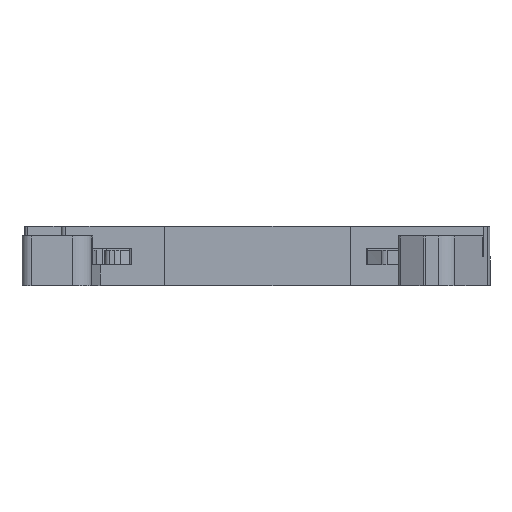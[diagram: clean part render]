
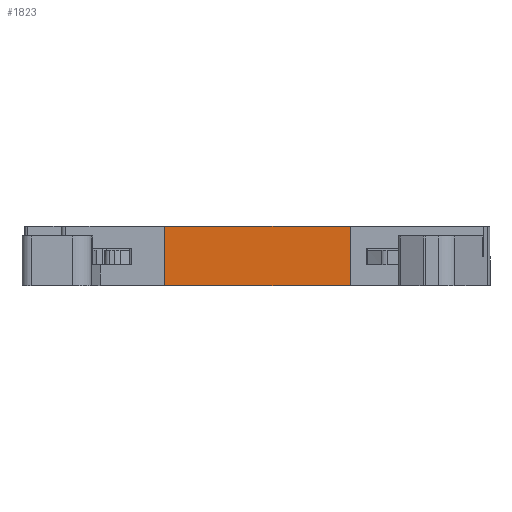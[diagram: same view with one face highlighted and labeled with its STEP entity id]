
A CAD part, front view. The second image highlights one B-rep face of the part: STEP entity #1823.
In plain terms, the highlighted planar face has unit normal (0, -1, 0).
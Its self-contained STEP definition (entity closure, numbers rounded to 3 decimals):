
#1823=ADVANCED_FACE('',(#3267),#2597,.T.);
#2597=PLANE('',#18495);
#3267=FACE_OUTER_BOUND('',#4154,.T.);
#4154=EDGE_LOOP('',(#7249,#7250,#7251,#7252));
#7249=ORIENTED_EDGE('',*,*,#13087,.F.);
#7250=ORIENTED_EDGE('',*,*,#13088,.T.);
#7251=ORIENTED_EDGE('',*,*,#13084,.T.);
#7252=ORIENTED_EDGE('',*,*,#13089,.F.);
#10932=VERTEX_POINT('',#28011);
#10933=VERTEX_POINT('',#28012);
#10934=VERTEX_POINT('',#28017);
#10935=VERTEX_POINT('',#28018);
#13084=EDGE_CURVE('',#10932,#10933,#15239,.T.);
#13087=EDGE_CURVE('',#10934,#10935,#15242,.T.);
#13088=EDGE_CURVE('',#10934,#10932,#15243,.T.);
#13089=EDGE_CURVE('',#10935,#10933,#15244,.T.);
#15239=LINE('',#28010,#17022);
#15242=LINE('',#28016,#17025);
#15243=LINE('',#28019,#17026);
#15244=LINE('',#28020,#17027);
#17022=VECTOR('',#22000,1.);
#17025=VECTOR('',#22005,1.);
#17026=VECTOR('',#22006,1.);
#17027=VECTOR('',#22007,1.);
#18495=AXIS2_PLACEMENT_3D('',#28021,#22008,#22009);
#22000=DIRECTION('',(0.,0.,1.));
#22005=DIRECTION('',(0.,0.,1.));
#22006=DIRECTION('',(1.,0.,0.));
#22007=DIRECTION('',(1.,0.,0.));
#22008=DIRECTION('',(0.,-1.,0.));
#22009=DIRECTION('',(1.,0.,0.));
#28010=CARTESIAN_POINT('',(9.75,0.,0.03));
#28011=CARTESIAN_POINT('',(9.75,0.,0.03));
#28012=CARTESIAN_POINT('',(9.75,0.,6.23));
#28016=CARTESIAN_POINT('',(-9.75,0.,0.03));
#28017=CARTESIAN_POINT('',(-9.75,0.,0.03));
#28018=CARTESIAN_POINT('',(-9.75,0.,6.23));
#28019=CARTESIAN_POINT('',(-9.75,0.,0.03));
#28020=CARTESIAN_POINT('',(-9.75,0.,6.23));
#28021=CARTESIAN_POINT('',(-9.75,0.,0.03));
